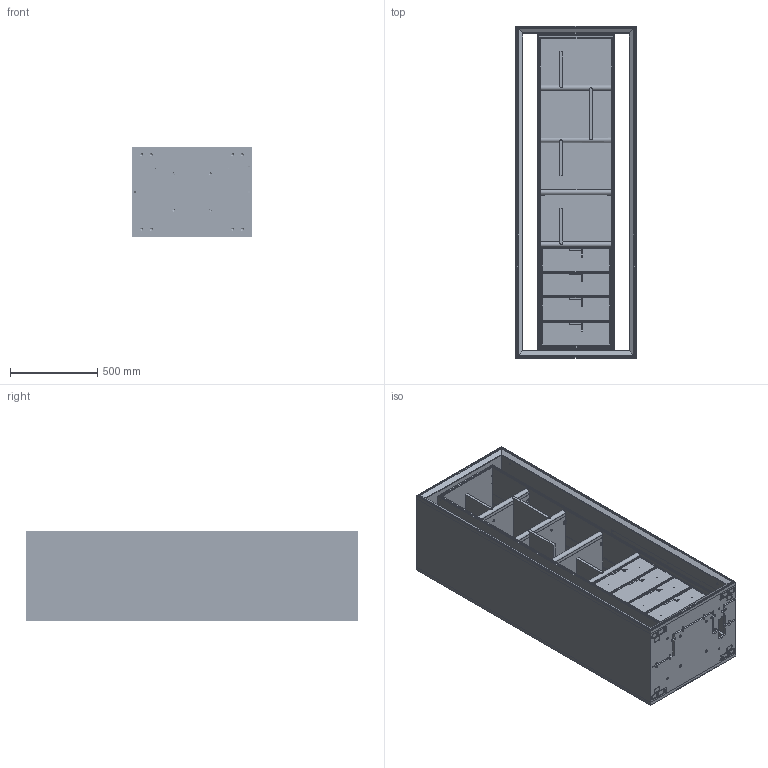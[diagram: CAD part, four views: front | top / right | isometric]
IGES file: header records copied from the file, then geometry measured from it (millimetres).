
Global section: file name: 80051; native system: Autodesk Inventor 2014; preprocessor: unknown; author: Robertom; date: 20140526.111629; units: millimetre
Bounding box: 690 x 1900 x 520 mm (x, y, z)
Volume: 173153674.5 mm3; surface area: 21574274.2 mm2
Topology: 136 solids, 144 shells, 3572 faces, 10293 edges, 7085 vertices
Faces by surface type: bspline 3572
